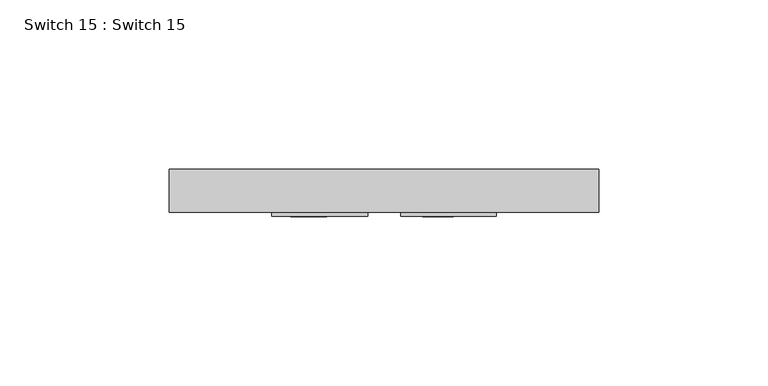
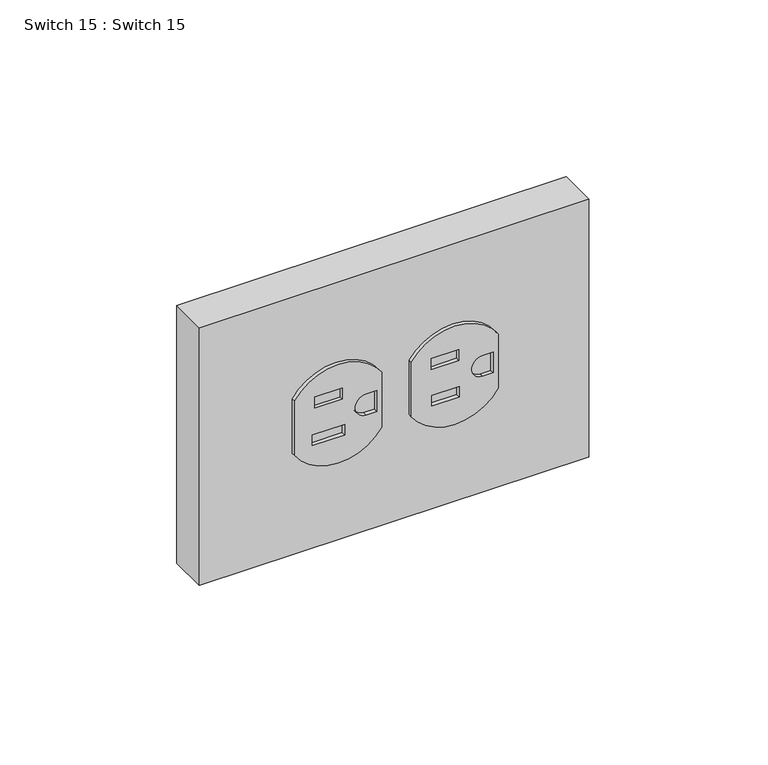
"""IFC4 building model written with IfcOpenShell, lengths in millimetres: proxy geometry, Switch 15 : Switch 15."""

from ifc_helpers import new_model, si_unit, point, frame, frame_2d, origin, origin_with_axes, place, context, project, spatial, polyline, circle_curve, trimmed, segment, composite_curve, outline, extrude, source, transform, mapped, element, save


def switch_15_switch_15_03a114fa(model_context):
    return source(origin(), model_context, "Body", "SweptSolid", [
        extrude(outline(composite_curve([segment(trimmed(circle_curve(frame_2d((44.3692374, -20.3338936)), 17.0868414), [point((53.873269, -6.1341213))], [point((53.873269, -34.5336658))], False, "CARTESIAN"), True, "CONTINUOUS"), segment(polyline([(53.873269, -34.5336658), (35.026731, -34.5336658)]), True, "CONTINUOUS"), segment(trimmed(circle_curve(frame_2d((44.5307626, -20.3338936)), 17.0868414), [point((35.026731, -34.5336658))], [point((35.026731, -6.1341213))], False, "CARTESIAN"), True, "CONTINUOUS"), segment(polyline([(35.026731, -6.1341213), (53.873269, -6.1341213)]), True, "CONTINUOUS")], self_intersect=False), holes=[polyline([(40.133304, -28.8465395), (40.133304, -18.2198495), (36.4724008, -18.2198495), (36.4724008, -28.8465395), (40.133304, -28.8465395)]), polyline([(49.1043724, -27.9681154), (52.9288716, -27.9681154), (52.9288716, -18.9673514), (49.1043724, -18.9673514), (49.1043724, -27.9681154)]), composite_curve([segment(polyline([(48.1172156, -7.7395737), (40.9564557, -7.7395737), (40.9564557, -11.1841943)]), True, "CONTINUOUS"), segment(trimmed(circle_curve(frame_2d((44.5368357, -11.1841943)), 3.58038), [point((40.9564557, -11.1841943))], [point((48.1172156, -11.1841943))], True, "CARTESIAN"), True, "CONTINUOUS"), segment(polyline([(48.1172156, -11.1841943), (48.1172156, -7.7395737)]), True, "CONTINUOUS")], self_intersect=False)]), frame((0.0, -13.9829052, 0.0), z_axis=(0.0, 1.0, 0.0), x_axis=(0.0, 0.0, 1.0)), (0.0, 0.0, 1.0), 1.2829052),
        extrude(outline(composite_curve([segment(trimmed(circle_curve(frame_2d((44.3696372, 17.6961895)), 17.002253), [point((53.8266191, 31.8256658))], [point((53.8266191, 3.5667132))], False, "CARTESIAN"), True, "CONTINUOUS"), segment(polyline([(53.8266191, 3.5667132), (35.0733809, 3.5667132)]), True, "CONTINUOUS"), segment(trimmed(circle_curve(frame_2d((44.5303628, 17.6961895)), 17.002253), [point((35.0733809, 3.5667132))], [point((35.0733809, 31.8256658))], False, "CARTESIAN"), True, "CONTINUOUS"), segment(polyline([(35.0733809, 31.8256658), (53.8266191, 31.8256658)]), True, "CONTINUOUS")], self_intersect=False), holes=[polyline([(40.1546738, 10.1606624), (40.1546738, 19.1371354), (36.5118939, 19.1371354), (36.5118939, 10.1606624), (40.1546738, 10.1606624)]), polyline([(49.081331, 10.0997609), (52.886897, 10.0997609), (52.886897, 19.0559666), (49.081331, 19.0559666), (49.081331, 10.0997609)]), composite_curve([segment(polyline([(48.0990611, 30.2281612), (40.9737505, 30.2281612), (40.9737505, 26.8005933)]), True, "CONTINUOUS"), segment(trimmed(circle_curve(frame_2d((44.5364058, 26.8005933)), 3.5626553), [point((40.9737505, 26.8005933))], [point((48.0990611, 26.8005933))], True, "CARTESIAN"), True, "CONTINUOUS"), segment(polyline([(48.0990611, 26.8005933), (48.0990611, 30.2281612)]), True, "CONTINUOUS")], self_intersect=False)]), frame((0.0, -13.9829052, 0.0), z_axis=(0.0, 1.0, 0.0), x_axis=(0.0, 0.0, 1.0)), (0.0, 0.0, 1.0), 1.2829052),
        extrude(outline(polyline([(-64.854, -12.7), (-64.854, 0.0), (62.146, 0.0), (62.146, -12.7), (-64.854, -12.7)])), origin_with_axes(), (0.0, 0.0, 1.0), 88.9),
    ])


if __name__ == "__main__":
    model = new_model("IFC4")
    model_context = context("Model", 3, world=origin())
    ifc_project = project(units=[si_unit("LENGTHUNIT", "METRE", prefix="MILLI")], contexts=[model_context])
    site = spatial("IfcSite", under=ifc_project)
    building = spatial("IfcBuilding", under=site)
    placement = place(None, origin())
    switch_15_switch_15_shape = switch_15_switch_15_03a114fa(model_context)
    element("IfcBuildingElementProxy", 1, Name="Switch 15 : Switch 15", ObjectType="Switch 15 : Switch 15", at=placement, inside=building, context=model_context, shape_type="MappedRepresentation", body=[
        mapped(switch_15_switch_15_shape, transform((0.0, 0.0, 0.0), x_axis=(1.0, 0.0, 0.0), y_axis=(0.0, 1.0, 0.0), z_axis=(0.0, 0.0, 1.0))),
    ])
    save(model, "model.ifc")
